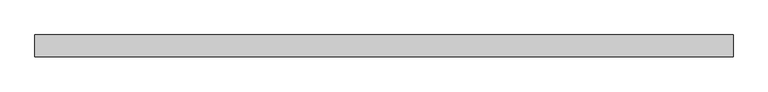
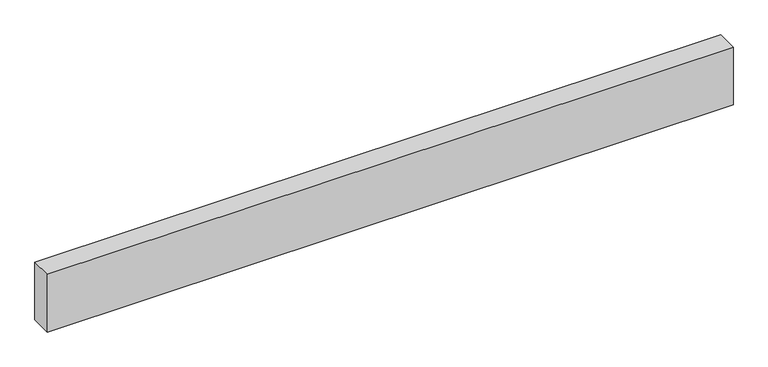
"""IFC4 building model written with IfcOpenShell, lengths in millimetres: proxy geometry."""

from ifc_helpers import new_model, si_unit, frame, origin, place, context, project, spatial, polyline, outline, extrude, source, transform, mapped, element, save


def structural_framing_2e8c135f(model_context):
    return source(origin(), model_context, "Body", "SweptSolid", [
        extrude(outline(polyline([(-2247.8, -70.0), (-2247.8, 70.0), (2247.8, 70.0), (2247.8, -70.0), (-2247.8, -70.0)])), frame((0.0, 0.0, -400.0), z_axis=(0.0, 0.0, 1.0), x_axis=(1.0, 0.0, 0.0)), (0.0, 0.0, 1.0), 400.0),
    ])


if __name__ == "__main__":
    model = new_model("IFC4")
    model_context = context("Model", 3, world=origin())
    ifc_project = project(units=[si_unit("LENGTHUNIT", "METRE", prefix="MILLI")], contexts=[model_context])
    site = spatial("IfcSite", under=ifc_project)
    building = spatial("IfcBuilding", under=site)
    placement = place(None, origin())
    structural_framing_shape = structural_framing_2e8c135f(model_context)
    element("IfcBuildingElementProxy", 1, Name="Structural Framing", at=placement, inside=building, context=model_context, shape_type="MappedRepresentation", body=[
        mapped(structural_framing_shape, transform((0.0, 0.0, 0.0), x_axis=(1.0, 0.0, 0.0), y_axis=(0.0, 1.0, 0.0), z_axis=(0.0, 0.0, 1.0))),
    ])
    save(model, "model.ifc")
